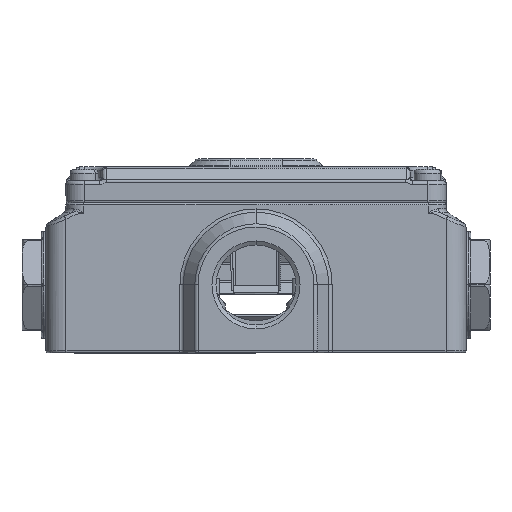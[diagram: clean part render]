
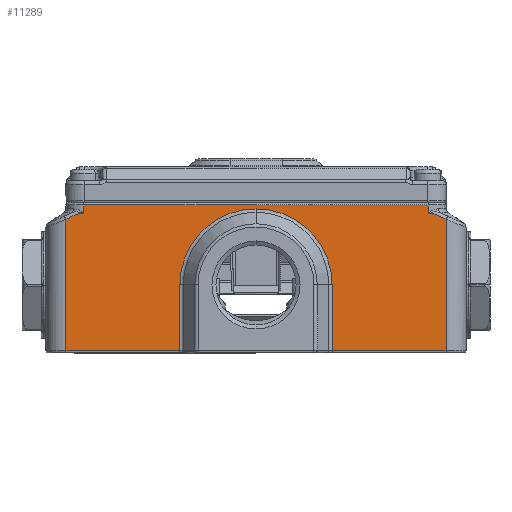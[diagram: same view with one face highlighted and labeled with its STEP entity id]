
A CAD part, front view. The second image highlights one B-rep face of the part: STEP entity #11289.
In plain terms, the highlighted planar face has unit normal (0, -1, 0).
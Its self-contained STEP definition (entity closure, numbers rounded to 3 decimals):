
#1496 = EDGE_LOOP ( 'NONE', ( #25663, #25640, #26036, #25936, #25568, #23542, #25984, #25839, #25539, #25046, #25345, #25898, #25690 ) ) ;
#8375 = CIRCLE ( 'NONE', #10442, 19.022 ) ;
#8383 = CIRCLE ( 'NONE', #10447, 19.022 ) ;
#9695 = AXIS2_PLACEMENT_3D ( 'NONE', #49383, #49377, #49375 ) ;
#10442 = AXIS2_PLACEMENT_3D ( 'NONE', #47788, #47786, #47785 ) ;
#10447 = AXIS2_PLACEMENT_3D ( 'NONE', #47780, #47765, #47764 ) ;
#11289 = ADVANCED_FACE ( 'NONE', ( #29030 ), #49382, .F. ) ;
#12127 = EDGE_CURVE ( 'NONE', #33805, #33803, #8375, .T. ) ;
#12133 = EDGE_CURVE ( 'NONE', #33792, #33805, #8383, .T. ) ;
#13872 = EDGE_CURVE ( 'NONE', #34658, #33792, #61204, .T. ) ;
#13881 = EDGE_CURVE ( 'NONE', #33803, #35081, #61224, .T. ) ;
#13882 = EDGE_CURVE ( 'NONE', #34464, #34238, #61226, .T. ) ;
#23542 = ORIENTED_EDGE ( 'NONE', *, *, #56156, .T. ) ;
#25046 = ORIENTED_EDGE ( 'NONE', *, *, #56229, .T. ) ;
#25345 = ORIENTED_EDGE ( 'NONE', *, *, #13872, .T. ) ;
#25539 = ORIENTED_EDGE ( 'NONE', *, *, #56221, .T. ) ;
#25568 = ORIENTED_EDGE ( 'NONE', *, *, #55859, .T. ) ;
#25640 = ORIENTED_EDGE ( 'NONE', *, *, #56163, .T. ) ;
#25663 = ORIENTED_EDGE ( 'NONE', *, *, #13881, .T. ) ;
#25690 = ORIENTED_EDGE ( 'NONE', *, *, #12127, .T. ) ;
#25839 = ORIENTED_EDGE ( 'NONE', *, *, #56211, .T. ) ;
#25898 = ORIENTED_EDGE ( 'NONE', *, *, #12133, .T. ) ;
#25936 = ORIENTED_EDGE ( 'NONE', *, *, #55852, .T. ) ;
#25984 = ORIENTED_EDGE ( 'NONE', *, *, #56250, .T. ) ;
#26036 = ORIENTED_EDGE ( 'NONE', *, *, #13882, .T. ) ;
#26622 = DIRECTION ( 'NONE',  ( 0., 0., 1. ) ) ;
#26624 = CARTESIAN_POINT ( 'NONE',  ( 47.5, -114., 40. ) ) ;
#26627 = DIRECTION ( 'NONE',  ( 0., 0., -1. ) ) ;
#26629 = CARTESIAN_POINT ( 'NONE',  ( 19.022, -114., 0. ) ) ;
#26678 = DIRECTION ( 'NONE',  ( 0., 0., 1. ) ) ;
#26716 = CARTESIAN_POINT ( 'NONE',  ( -19.022, -114., 17. ) ) ;
#27572 = CARTESIAN_POINT ( 'NONE',  ( 47.5, -114., 33.439 ) ) ;
#27576 = CARTESIAN_POINT ( 'NONE',  ( 47.149, -114., 33.633 ) ) ;
#27577 = CARTESIAN_POINT ( 'NONE',  ( 46.795, -114., 33.821 ) ) ;
#27578 = CARTESIAN_POINT ( 'NONE',  ( 46.077, -114., 34.173 ) ) ;
#27579 = CARTESIAN_POINT ( 'NONE',  ( 45.713, -114., 34.338 ) ) ;
#27580 = CARTESIAN_POINT ( 'NONE',  ( 44.967, -114., 34.628 ) ) ;
#27581 = CARTESIAN_POINT ( 'NONE',  ( 44.582, -114., 34.754 ) ) ;
#27582 = CARTESIAN_POINT ( 'NONE',  ( 43.801, -114., 34.93 ) ) ;
#27583 = CARTESIAN_POINT ( 'NONE',  ( 43.404, -114., 34.98 ) ) ;
#27584 = CARTESIAN_POINT ( 'NONE',  ( 43., -114., 34.98 ) ) ;
#27601 = CARTESIAN_POINT ( 'NONE',  ( 43., -114., 40. ) ) ;
#27602 = DIRECTION ( 'NONE',  ( 0., 0., 1. ) ) ;
#29030 = FACE_OUTER_BOUND ( 'NONE', #1496, .T. ) ;
#33610 = VERTEX_POINT ( 'NONE', #36055 ) ;
#33648 = VERTEX_POINT ( 'NONE', #36142 ) ;
#33792 = VERTEX_POINT ( 'NONE', #36489 ) ;
#33803 = VERTEX_POINT ( 'NONE', #36513 ) ;
#33805 = VERTEX_POINT ( 'NONE', #36517 ) ;
#33943 = VERTEX_POINT ( 'NONE', #36807 ) ;
#33963 = VERTEX_POINT ( 'NONE', #36848 ) ;
#34238 = VERTEX_POINT ( 'NONE', #37297 ) ;
#34361 = VERTEX_POINT ( 'NONE', #37373 ) ;
#34464 = VERTEX_POINT ( 'NONE', #37440 ) ;
#34585 = VERTEX_POINT ( 'NONE', #37520 ) ;
#34658 = VERTEX_POINT ( 'NONE', #35542 ) ;
#35081 = VERTEX_POINT ( 'NONE', #35821 ) ;
#35542 = CARTESIAN_POINT ( 'NONE',  ( -19.022, -114., 0.5 ) ) ;
#35821 = CARTESIAN_POINT ( 'NONE',  ( 19.022, -114., 0.5 ) ) ;
#36055 = CARTESIAN_POINT ( 'NONE',  ( -43., -114., 37. ) ) ;
#36142 = CARTESIAN_POINT ( 'NONE',  ( -47.5, -114., 33.439 ) ) ;
#36489 = CARTESIAN_POINT ( 'NONE',  ( -19.022, -114., 17. ) ) ;
#36513 = CARTESIAN_POINT ( 'NONE',  ( 19.022, -114., 17. ) ) ;
#36517 = CARTESIAN_POINT ( 'NONE',  ( 0., -114., 36.022 ) ) ;
#36807 = CARTESIAN_POINT ( 'NONE',  ( 43., -114., 34.98 ) ) ;
#36848 = CARTESIAN_POINT ( 'NONE',  ( -47.5, -114., 0.5 ) ) ;
#37297 = CARTESIAN_POINT ( 'NONE',  ( 47.5, -114., 33.439 ) ) ;
#37373 = CARTESIAN_POINT ( 'NONE',  ( -43., -114., 34.98 ) ) ;
#37440 = CARTESIAN_POINT ( 'NONE',  ( 47.5, -114., 0.5 ) ) ;
#37520 = CARTESIAN_POINT ( 'NONE',  ( 43., -114., 37. ) ) ;
#41027 = B_SPLINE_CURVE_WITH_KNOTS ( 'NONE', 3,
 ( #27572, #27576, #27577, #27578, #27579, #27580, #27581, #27582, #27583, #27584 ),
 .UNSPECIFIED., .F., .F.,
 ( 4, 2, 2, 2, 4 ),
 ( 0., 0.001, 0.002, 0.004, 0.005 ),
 .UNSPECIFIED. ) ;
#41054 = B_SPLINE_CURVE_WITH_KNOTS ( 'NONE', 3,
 ( #56607, #56624, #56625, #56626, #56627, #56628, #56629, #56630, #56631, #56632 ),
 .UNSPECIFIED., .F., .F.,
 ( 4, 2, 2, 2, 4 ),
 ( 0., 0.001, 0.002, 0.004, 0.005 ),
 .UNSPECIFIED. ) ;
#47764 = DIRECTION ( 'NONE',  ( 0., 0., 1. ) ) ;
#47765 = DIRECTION ( 'NONE',  ( 0., 1., 0. ) ) ;
#47780 = CARTESIAN_POINT ( 'NONE',  ( 0., -114., 17. ) ) ;
#47785 = DIRECTION ( 'NONE',  ( 0., 0., 1. ) ) ;
#47786 = DIRECTION ( 'NONE',  ( 0., 1., 0. ) ) ;
#47788 = CARTESIAN_POINT ( 'NONE',  ( 0., -114., 17. ) ) ;
#49375 = DIRECTION ( 'NONE',  ( 0., 0., 1. ) ) ;
#49377 = DIRECTION ( 'NONE',  ( 0., 1., 0. ) ) ;
#49382 = PLANE ( 'NONE',  #9695 ) ;
#49383 = CARTESIAN_POINT ( 'NONE',  ( -47.5, -114., 40. ) ) ;
#54626 = LINE ( 'NONE', #27601, #54643 ) ;
#54643 = VECTOR ( 'NONE', #27602, 1000. ) ;
#55852 = EDGE_CURVE ( 'NONE', #34238, #33943, #41027, .T. ) ;
#55859 = EDGE_CURVE ( 'NONE', #33943, #34585, #54626, .T. ) ;
#56156 = EDGE_CURVE ( 'NONE', #34585, #33610, #57347, .T. ) ;
#56163 = EDGE_CURVE ( 'NONE', #35081, #34464, #57356, .T. ) ;
#56211 = EDGE_CURVE ( 'NONE', #34361, #33648, #41054, .T. ) ;
#56221 = EDGE_CURVE ( 'NONE', #33648, #33963, #57428, .T. ) ;
#56229 = EDGE_CURVE ( 'NONE', #33963, #34658, #57439, .T. ) ;
#56250 = EDGE_CURVE ( 'NONE', #33610, #34361, #57463, .T. ) ;
#56439 = DIRECTION ( 'NONE',  ( -1., 0., 0. ) ) ;
#56445 = CARTESIAN_POINT ( 'NONE',  ( 47.5, -114., 0.5 ) ) ;
#56458 = DIRECTION ( 'NONE',  ( 1., 0., 0. ) ) ;
#56607 = CARTESIAN_POINT ( 'NONE',  ( -43., -114., 34.98 ) ) ;
#56624 = CARTESIAN_POINT ( 'NONE',  ( -43.404, -114., 34.98 ) ) ;
#56625 = CARTESIAN_POINT ( 'NONE',  ( -43.801, -114., 34.93 ) ) ;
#56626 = CARTESIAN_POINT ( 'NONE',  ( -44.582, -114., 34.754 ) ) ;
#56627 = CARTESIAN_POINT ( 'NONE',  ( -44.967, -114., 34.628 ) ) ;
#56628 = CARTESIAN_POINT ( 'NONE',  ( -45.713, -114., 34.338 ) ) ;
#56629 = CARTESIAN_POINT ( 'NONE',  ( -46.077, -114., 34.173 ) ) ;
#56630 = CARTESIAN_POINT ( 'NONE',  ( -46.795, -114., 33.821 ) ) ;
#56631 = CARTESIAN_POINT ( 'NONE',  ( -47.149, -114., 33.633 ) ) ;
#56632 = CARTESIAN_POINT ( 'NONE',  ( -47.5, -114., 33.439 ) ) ;
#56639 = CARTESIAN_POINT ( 'NONE',  ( -47.5, -114., 40. ) ) ;
#56656 = DIRECTION ( 'NONE',  ( 0., 0., -1. ) ) ;
#56663 = CARTESIAN_POINT ( 'NONE',  ( -19.022, -114., 0.5 ) ) ;
#56678 = DIRECTION ( 'NONE',  ( 1., 0., 0. ) ) ;
#56733 = CARTESIAN_POINT ( 'NONE',  ( -43., -114., 40. ) ) ;
#56734 = DIRECTION ( 'NONE',  ( 0., 0., -1. ) ) ;
#57336 = VECTOR ( 'NONE', #56439, 1000. ) ;
#57347 = LINE ( 'NONE', #60278, #57336 ) ;
#57349 = VECTOR ( 'NONE', #56458, 1000. ) ;
#57356 = LINE ( 'NONE', #56445, #57349 ) ;
#57417 = VECTOR ( 'NONE', #56656, 1000. ) ;
#57428 = LINE ( 'NONE', #56639, #57417 ) ;
#57431 = VECTOR ( 'NONE', #56678, 1000. ) ;
#57439 = LINE ( 'NONE', #56663, #57431 ) ;
#57460 = VECTOR ( 'NONE', #56734, 1000. ) ;
#57463 = LINE ( 'NONE', #56733, #57460 ) ;
#60278 = CARTESIAN_POINT ( 'NONE',  ( -47.5, -114., 37. ) ) ;
#61204 = LINE ( 'NONE', #26716, #61210 ) ;
#61210 = VECTOR ( 'NONE', #26678, 1000. ) ;
#61224 = LINE ( 'NONE', #26629, #61225 ) ;
#61225 = VECTOR ( 'NONE', #26627, 1000. ) ;
#61226 = LINE ( 'NONE', #26624, #61227 ) ;
#61227 = VECTOR ( 'NONE', #26622, 1000. ) ;
